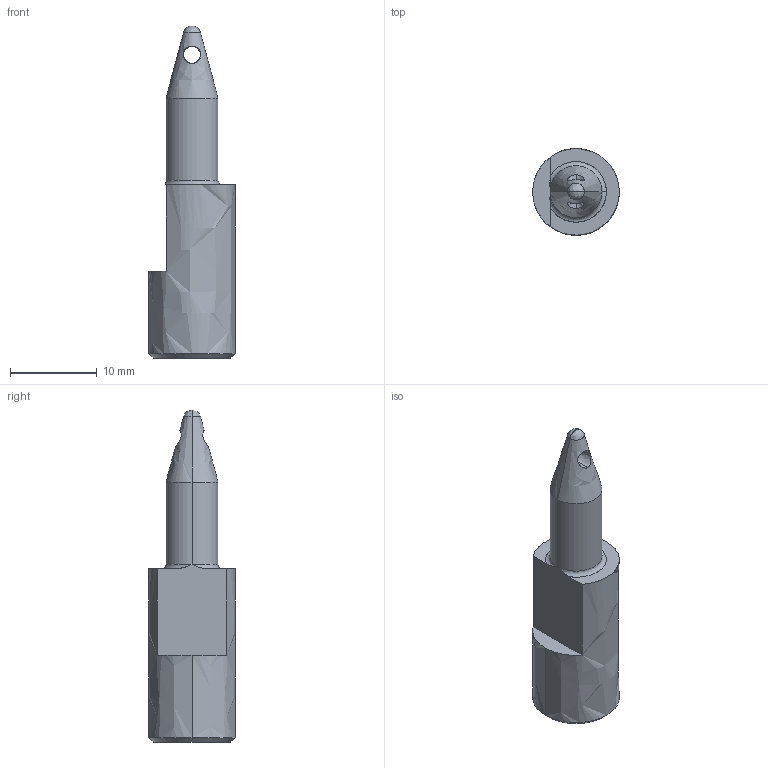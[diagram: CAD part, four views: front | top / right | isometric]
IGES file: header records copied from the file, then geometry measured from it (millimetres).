
Global section: file name: E:\UnigraphicsGraphicData\MISUMI_PRESS-PARTS\IGES\3d_sdkl10_03091_r00.igs; native system: NX V5.0; preprocessor: UGS NX IGES V5.0; author: MISUMI; date: 20110105.162515; units: millimetre
Bounding box: 10 x 10 x 38.33 mm (x, y, z)
Surface area: 1034.7 mm2 (no closed solid volume)
Topology: 0 solids, 0 shells, 18 faces, 129 edges, 127 vertices
Faces by surface type: bspline 18
